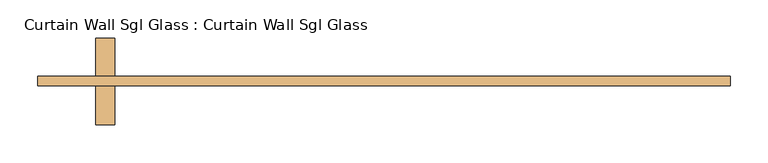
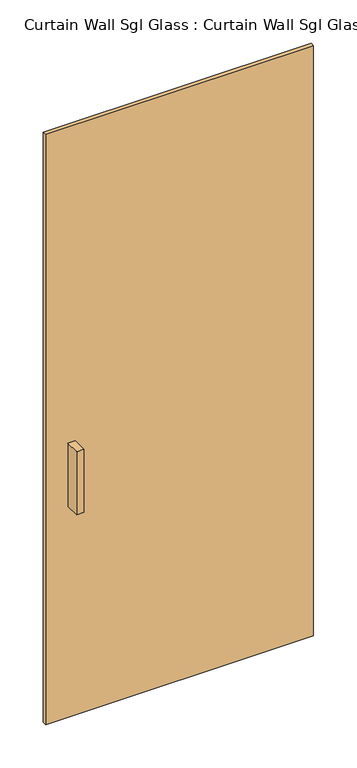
"""IFC4 building model written with IfcOpenShell, lengths in millimetres: door geometry, Curtain Wall Sgl Glass : Curtain Wall Sgl Glass."""

from ifc_helpers import new_model, si_unit, frame, origin, origin_with_axes, place, context, project, spatial, polyline, outline, extrude, source, transform, mapped, element, save


def curtain_wall_sgl_glass_curtain_wall_sgl_glass_c2d4b377(model_context):
    return source(origin(), model_context, "Body", "SweptSolid", [
        extrude(outline(polyline([(-355.6, 12.7), (-355.6, -38.1), (-381.0, -38.1), (-381.0, 12.7), (-355.6, 12.7)])), frame((0.0, 0.0, 762.0), z_axis=(0.0, 0.0, 1.0), x_axis=(1.0, 0.0, 0.0)), (0.0, 0.0, 1.0), 228.6),
        extrude(outline(polyline([(-381.0, -101.6), (-381.0, -50.8), (-355.6, -50.8), (-355.6, -101.6), (-381.0, -101.6)])), frame((0.0, 0.0, 762.0), z_axis=(0.0, 0.0, 1.0), x_axis=(1.0, 0.0, 0.0)), (0.0, 0.0, 1.0), 228.6),
        extrude(outline(polyline([(457.2, -50.8), (-457.2, -50.8), (-457.2, -38.1), (457.2, -38.1), (457.2, -50.8)])), origin_with_axes(), (0.0, 0.0, 1.0), 2133.6),
    ])


if __name__ == "__main__":
    model = new_model("IFC4")
    model_context = context("Model", 3, world=origin())
    ifc_project = project(units=[si_unit("LENGTHUNIT", "METRE", prefix="MILLI")], contexts=[model_context])
    site = spatial("IfcSite", under=ifc_project)
    building = spatial("IfcBuilding", under=site)
    placement = place(None, origin())
    curtain_wall_sgl_glass_curtain_wall_sgl_glass_shape = curtain_wall_sgl_glass_curtain_wall_sgl_glass_c2d4b377(model_context)
    element("IfcDoor", 1, ObjectType="Curtain Wall Sgl Glass : Curtain Wall Sgl Glass", at=placement, inside=building, context=model_context, shape_type="MappedRepresentation", body=[
        mapped(curtain_wall_sgl_glass_curtain_wall_sgl_glass_shape, transform((0.0, 0.0, 0.0), x_axis=(1.0, 0.0, 0.0), y_axis=(0.0, 1.0, 0.0), z_axis=(0.0, 0.0, 1.0))),
    ])
    save(model, "model.ifc")
